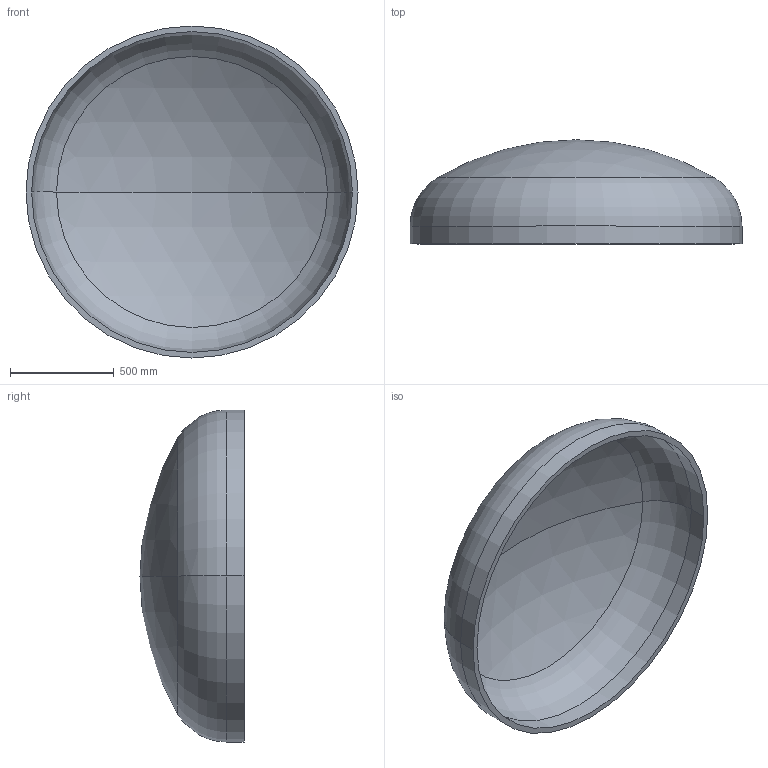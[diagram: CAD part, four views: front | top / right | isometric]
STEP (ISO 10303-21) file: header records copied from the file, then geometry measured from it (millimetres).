
FILE_DESCRIPTION (( 'STEP AP203' ), '1' );
FILE_NAME ('DIN 28013 Korbbogenform_-_Boden DIN 28013 - 1600 x 85 - I - s=27.step', '2016-07-01T11:10:46', ( '' ), ( '' ), 'SwSTEP 2.0', 'SolidWorks 2013', '' );
FILE_SCHEMA (( 'CONFIG_CONTROL_DESIGN' ));
Length unit declared in the file: millimetre
Products named in the file (1): DIN 28013 Korbbogenform_-_Boden DIN 28013 - 1600 x 85 - I - s=27
Bounding box: 1600 x 501.81 x 1600 mm (x, y, z)
Volume: 84789673.6 mm3; surface area: 6415667.9 mm2
Topology: 1 solids, 1 shells, 13 faces, 24 edges, 14 vertices
Faces by surface type: torus 4, cylinder 4, sphere 4, plane 1
Entity records: 407 total; most frequent: DIRECTION 72, CARTESIAN_POINT 52, ORIENTED_EDGE 48, AXIS2_PLACEMENT_3D 34, EDGE_CURVE 24, CIRCLE 20, VERTEX_POINT 14, EDGE_LOOP 14
